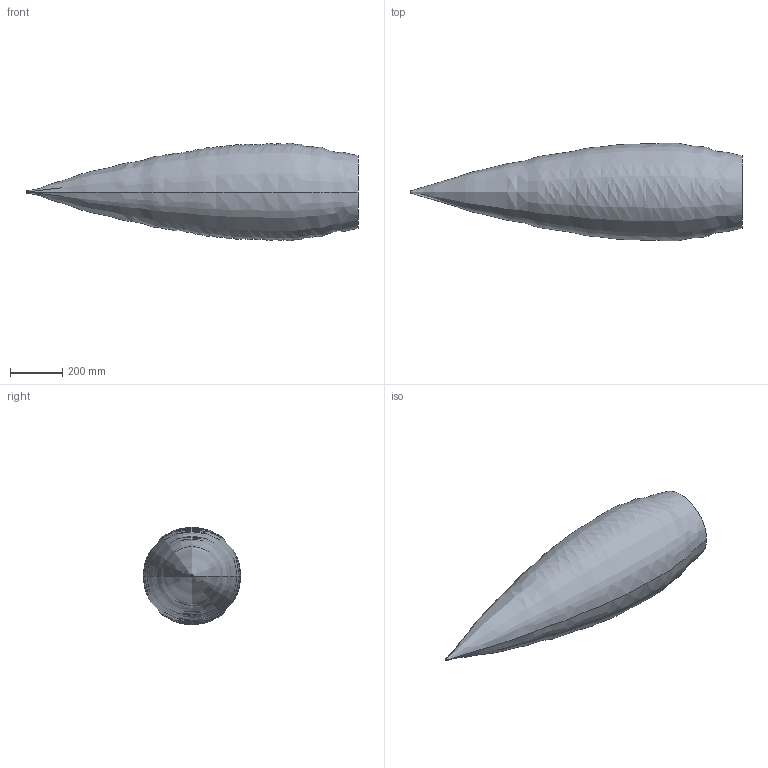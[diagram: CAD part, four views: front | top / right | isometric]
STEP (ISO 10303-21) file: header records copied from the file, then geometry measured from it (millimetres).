
FILE_DESCRIPTION (( 'STEP AP203' ), '1' );
FILE_NAME ('Schallfeld pms+100 Rohr.STEP', '2024-06-10T09:52:49', ( '' ), ( '' ), 'SwSTEP 2.0', 'SolidWorks 2024', '' );
FILE_SCHEMA (( 'CONFIG_CONTROL_DESIGN' ));
Length unit declared in the file: millimetre
Products named in the file (1): Schallfeld pms+100 Rohr
Bounding box: 1270 x 372.07 x 374 mm (x, y, z)
Volume: 80218911.8 mm3; surface area: 1125124.8 mm2
Topology: 1 solids, 1 shells, 4 faces, 6 edges, 4 vertices
Faces by surface type: bspline 2, plane 2
Entity records: 495 total; most frequent: CARTESIAN_POINT 351, DIRECTION 14, ORIENTED_EDGE 12, PERSON_AND_ORGANIZATION 8, AXIS2_PLACEMENT_3D 7, EDGE_CURVE 6, PERSON_AND_ORGANIZATION_ROLE 5, COORDINATED_UNIVERSAL_TIME_OFFSET 5
